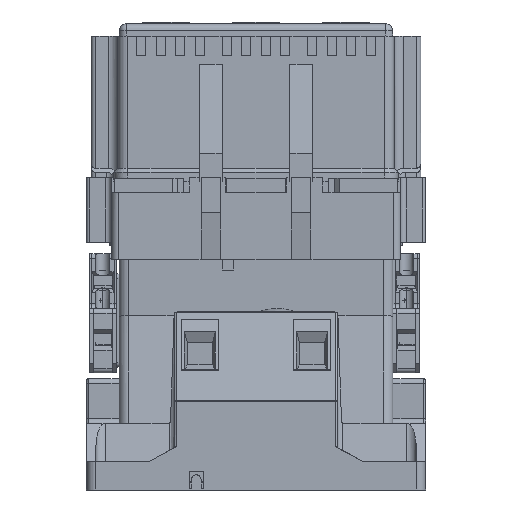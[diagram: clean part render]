
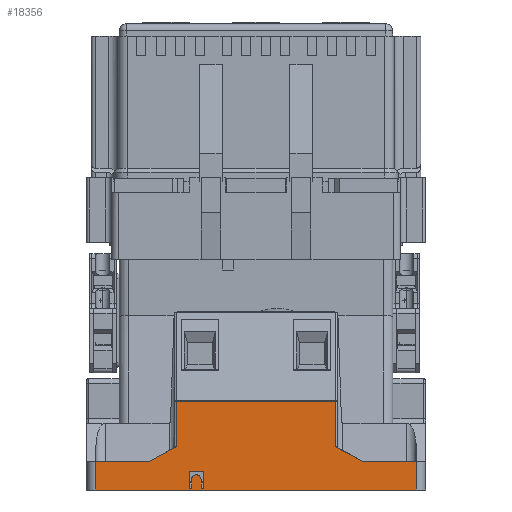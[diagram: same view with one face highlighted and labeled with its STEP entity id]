
A CAD part, left-side view. The second image highlights one B-rep face of the part: STEP entity #18356.
In plain terms, the highlighted planar face has unit normal (-1, 0, 0).
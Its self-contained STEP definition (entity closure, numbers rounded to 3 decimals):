
#655=DIRECTION('',(0.,-1.,0.));
#656=VECTOR('',#655,137.);
#657=CARTESIAN_POINT('',(-1.2,141.,0.));
#658=LINE('',#657,#656);
#957=DIRECTION('',(0.,-0.878,-0.479));
#958=VECTOR('',#957,13.669);
#959=CARTESIAN_POINT('',(-1.2,38.5,18.545));
#960=LINE('',#959,#958);
#961=DIRECTION('',(0.,-1.,0.));
#962=VECTOR('',#961,22.5);
#963=CARTESIAN_POINT('',(-1.2,26.5,12.));
#964=LINE('',#963,#962);
#965=DIRECTION('',(0.,-1.,0.));
#966=VECTOR('',#965,22.5);
#967=CARTESIAN_POINT('',(-1.2,141.,12.));
#968=LINE('',#967,#966);
#969=DIRECTION('',(0.,-0.878,0.479));
#970=VECTOR('',#969,13.669);
#971=CARTESIAN_POINT('',(-1.2,118.5,12.));
#972=LINE('',#971,#970);
#973=CARTESIAN_POINT('',(-1.2,98.,4.5));
#974=DIRECTION('',(1.,0.,0.));
#975=DIRECTION('',(0.,1.,0.));
#976=AXIS2_PLACEMENT_3D('',#973,#974,#975);
#978=CARTESIAN_POINT('',(-1.2,98.,4.5));
#979=DIRECTION('',(1.,0.,0.));
#980=DIRECTION('',(0.,0.,1.));
#981=AXIS2_PLACEMENT_3D('',#978,#979,#980);
#983=DIRECTION('',(0.,0.,-1.));
#984=VECTOR('',#983,1.5);
#985=CARTESIAN_POINT('',(-1.2,96.,4.5));
#986=LINE('',#985,#984);
#987=DIRECTION('',(0.,0.,-1.));
#988=VECTOR('',#987,2.2);
#989=CARTESIAN_POINT('',(-1.2,96.,3.));
#990=LINE('',#989,#988);
#991=DIRECTION('',(0.,-1.,0.));
#992=VECTOR('',#991,1.);
#993=CARTESIAN_POINT('',(-1.2,96.,0.8));
#994=LINE('',#993,#992);
#995=DIRECTION('',(0.,0.,1.));
#996=VECTOR('',#995,7.2);
#997=CARTESIAN_POINT('',(-1.2,95.,0.8));
#998=LINE('',#997,#996);
#999=DIRECTION('',(0.,1.,0.));
#1000=VECTOR('',#999,6.);
#1001=CARTESIAN_POINT('',(-1.2,95.,8.));
#1002=LINE('',#1001,#1000);
#1003=DIRECTION('',(0.,0.,-1.));
#1004=VECTOR('',#1003,7.2);
#1005=CARTESIAN_POINT('',(-1.2,101.,8.));
#1006=LINE('',#1005,#1004);
#1007=DIRECTION('',(0.,-1.,0.));
#1008=VECTOR('',#1007,1.);
#1009=CARTESIAN_POINT('',(-1.2,101.,0.8));
#1010=LINE('',#1009,#1008);
#1011=DIRECTION('',(0.,0.,1.));
#1012=VECTOR('',#1011,2.2);
#1013=CARTESIAN_POINT('',(-1.2,100.,0.8));
#1014=LINE('',#1013,#1012);
#1015=DIRECTION('',(0.,0.,1.));
#1016=VECTOR('',#1015,1.5);
#1017=CARTESIAN_POINT('',(-1.2,100.,3.));
#1018=LINE('',#1017,#1016);
#1019=DIRECTION('',(0.,0.,1.));
#1020=VECTOR('',#1019,12.);
#1021=CARTESIAN_POINT('',(-1.2,4.,0.));
#1022=LINE('',#1021,#1020);
#1031=DIRECTION('',(0.,0.,-1.));
#1032=VECTOR('',#1031,12.);
#1033=CARTESIAN_POINT('',(-1.2,141.,12.));
#1034=LINE('',#1033,#1032);
#4288=DIRECTION('',(0.,0.,-1.));
#4289=VECTOR('',#4288,19.325);
#4290=CARTESIAN_POINT('',(-1.2,106.5,37.871));
#4291=LINE('',#4290,#4289);
#4317=DIRECTION('',(0.,1.,0.));
#4318=VECTOR('',#4317,68.);
#4319=CARTESIAN_POINT('',(-1.2,38.5,37.871));
#4320=LINE('',#4319,#4318);
#4354=DIRECTION('',(0.,0.,1.));
#4355=VECTOR('',#4354,19.325);
#4356=CARTESIAN_POINT('',(-1.2,38.5,18.545));
#4357=LINE('',#4356,#4355);
#13560=CARTESIAN_POINT('',(-1.2,141.,0.));
#13561=VERTEX_POINT('',#13560);
#13562=CARTESIAN_POINT('',(-1.2,4.,0.));
#13563=VERTEX_POINT('',#13562);
#13692=CARTESIAN_POINT('',(-1.2,4.,12.));
#13693=VERTEX_POINT('',#13692);
#13694=CARTESIAN_POINT('',(-1.2,26.5,12.));
#13695=VERTEX_POINT('',#13694);
#13720=CARTESIAN_POINT('',(-1.2,38.5,18.545));
#13721=VERTEX_POINT('',#13720);
#13723=CARTESIAN_POINT('',(-1.2,141.,12.));
#13724=VERTEX_POINT('',#13723);
#13725=CARTESIAN_POINT('',(-1.2,118.5,12.));
#13726=VERTEX_POINT('',#13725);
#13727=CARTESIAN_POINT('',(-1.2,106.5,18.545));
#13728=VERTEX_POINT('',#13727);
#13729=CARTESIAN_POINT('',(-1.2,106.5,37.871));
#13730=VERTEX_POINT('',#13729);
#13731=CARTESIAN_POINT('',(-1.2,38.5,37.871));
#13732=VERTEX_POINT('',#13731);
#13733=CARTESIAN_POINT('',(-1.2,98.,6.5));
#13734=CARTESIAN_POINT('',(-1.2,96.,4.5));
#13735=VERTEX_POINT('',#13733);
#13736=VERTEX_POINT('',#13734);
#13737=CARTESIAN_POINT('',(-1.2,100.,4.5));
#13738=VERTEX_POINT('',#13737);
#13739=CARTESIAN_POINT('',(-1.2,96.,3.));
#13740=VERTEX_POINT('',#13739);
#13741=CARTESIAN_POINT('',(-1.2,96.,0.8));
#13742=VERTEX_POINT('',#13741);
#13743=CARTESIAN_POINT('',(-1.2,95.,0.8));
#13744=VERTEX_POINT('',#13743);
#13745=CARTESIAN_POINT('',(-1.2,95.,8.));
#13746=VERTEX_POINT('',#13745);
#13747=CARTESIAN_POINT('',(-1.2,101.,8.));
#13748=VERTEX_POINT('',#13747);
#13749=CARTESIAN_POINT('',(-1.2,101.,0.8));
#13750=VERTEX_POINT('',#13749);
#13751=CARTESIAN_POINT('',(-1.2,100.,0.8));
#13752=VERTEX_POINT('',#13751);
#13753=CARTESIAN_POINT('',(-1.2,100.,3.));
#13754=VERTEX_POINT('',#13753);
#18308=CARTESIAN_POINT('',(-1.2,72.5,0.));
#18309=DIRECTION('',(-1.,0.,0.));
#18310=DIRECTION('',(0.,0.,1.));
#18311=AXIS2_PLACEMENT_3D('',#18308,#18309,#18310);
#18312=PLANE('',#18311);
#18313=ORIENTED_EDGE('',*,*,#18295,.T.);
#18314=ORIENTED_EDGE('',*,*,#18244,.T.);
#18316=ORIENTED_EDGE('',*,*,#18315,.F.);
#18317=ORIENTED_EDGE('',*,*,#17819,.F.);
#18319=ORIENTED_EDGE('',*,*,#18318,.F.);
#18321=ORIENTED_EDGE('',*,*,#18320,.T.);
#18323=ORIENTED_EDGE('',*,*,#18322,.T.);
#18325=ORIENTED_EDGE('',*,*,#18324,.F.);
#18327=ORIENTED_EDGE('',*,*,#18326,.F.);
#18329=ORIENTED_EDGE('',*,*,#18328,.F.);
#18330=EDGE_LOOP('',(#18313,#18314,#18316,#18317,#18319,#18321,#18323,#18325,
#18327,#18329));
#18331=FACE_OUTER_BOUND('',#18330,.F.);
#18333=ORIENTED_EDGE('',*,*,#18332,.T.);
#18335=ORIENTED_EDGE('',*,*,#18334,.T.);
#18337=ORIENTED_EDGE('',*,*,#18336,.T.);
#18339=ORIENTED_EDGE('',*,*,#18338,.T.);
#18341=ORIENTED_EDGE('',*,*,#18340,.T.);
#18343=ORIENTED_EDGE('',*,*,#18342,.T.);
#18345=ORIENTED_EDGE('',*,*,#18344,.T.);
#18347=ORIENTED_EDGE('',*,*,#18346,.T.);
#18349=ORIENTED_EDGE('',*,*,#18348,.T.);
#18351=ORIENTED_EDGE('',*,*,#18350,.T.);
#18353=ORIENTED_EDGE('',*,*,#18352,.T.);
#18354=EDGE_LOOP('',(#18333,#18335,#18337,#18339,#18341,#18343,#18345,#18347,
#18349,#18351,#18353));
#18355=FACE_BOUND('',#18354,.F.);
#18356=ADVANCED_FACE('',(#18331,#18355),#18312,.T.);
#977=CIRCLE('',#976,2.);
#982=CIRCLE('',#981,2.);
#17819=EDGE_CURVE('',#13561,#13563,#658,.T.);
#18244=EDGE_CURVE('',#13695,#13693,#964,.T.);
#18295=EDGE_CURVE('',#13721,#13695,#960,.T.);
#18315=EDGE_CURVE('',#13563,#13693,#1022,.T.);
#18318=EDGE_CURVE('',#13724,#13561,#1034,.T.);
#18320=EDGE_CURVE('',#13724,#13726,#968,.T.);
#18322=EDGE_CURVE('',#13726,#13728,#972,.T.);
#18324=EDGE_CURVE('',#13730,#13728,#4291,.T.);
#18326=EDGE_CURVE('',#13732,#13730,#4320,.T.);
#18328=EDGE_CURVE('',#13721,#13732,#4357,.T.);
#18332=EDGE_CURVE('',#13738,#13735,#977,.T.);
#18334=EDGE_CURVE('',#13735,#13736,#982,.T.);
#18336=EDGE_CURVE('',#13736,#13740,#986,.T.);
#18338=EDGE_CURVE('',#13740,#13742,#990,.T.);
#18340=EDGE_CURVE('',#13742,#13744,#994,.T.);
#18342=EDGE_CURVE('',#13744,#13746,#998,.T.);
#18344=EDGE_CURVE('',#13746,#13748,#1002,.T.);
#18346=EDGE_CURVE('',#13748,#13750,#1006,.T.);
#18348=EDGE_CURVE('',#13750,#13752,#1010,.T.);
#18350=EDGE_CURVE('',#13752,#13754,#1014,.T.);
#18352=EDGE_CURVE('',#13754,#13738,#1018,.T.);
